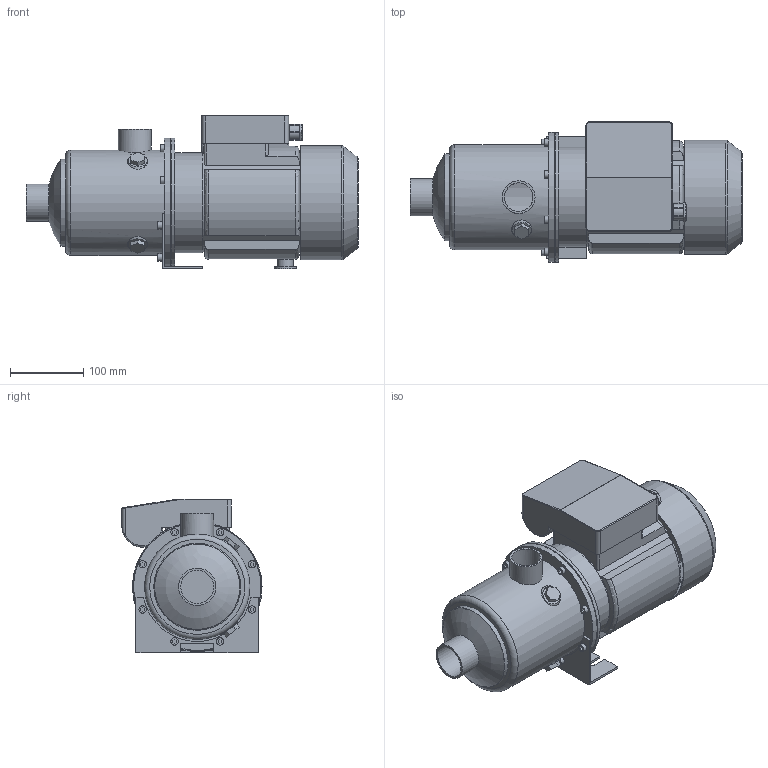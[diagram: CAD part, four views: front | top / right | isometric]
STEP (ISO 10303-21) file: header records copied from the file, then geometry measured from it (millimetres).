
FILE_DESCRIPTION(/* description */ ('Unknown'),/* implementation_level */ '2;1');
FILE_NAME(/* name */ 'MH 9 [4] M',/* time_stamp */ '2026-07-10T15:04:09+02:00',/* author */ ('Unknown'),/* organization */ ('Unknown'),/* preprocessor_version */ 'ST-DEVELOPER v20',/* originating_system */ 'Solid Edge',/* authorisation */ 'Unknown');
FILE_SCHEMA (('AUTOMOTIVE_DESIGN {1 0 10303 214 3 1 1}'));
Length unit declared in the file: millimetre
Products named in the file (10): MH 9 [4] M; Flangia motore Tonda M80; Corpo MH 9 [4]; Mot_Wendy_MEC80_11-15_M; carcassa MEC 80-Wendy; Copriventola MEC 80-Wendy; Basetta MEC 80 M-Wendy_new; 1; Piedino MEC 80 int.90; Staffa 3-5-9 int.90
Assembly tree (9 placements, depth 3):
  MH 9 [4] M
    Flangia motore Tonda M80
    Corpo MH 9 [4]
    Mot_Wendy_MEC80_11-15_M
      carcassa MEC 80-Wendy
      Copriventola MEC 80-Wendy
      Basetta MEC 80 M-Wendy_new
      1
    Piedino MEC 80 int.90
    Staffa 3-5-9 int.90
Bounding box: 452.1 x 190.75 x 209.5 mm (x, y, z)
Volume: 2628270.8 mm3; surface area: 605556.4 mm2
Topology: 8 solids, 8 shells, 287 faces, 678 edges, 447 vertices
Faces by surface type: plane 169, cylinder 79, torus 19, cone 14, bspline 4, sphere 2
Full cylindrical faces by diameter (mm): 7 x4, 10 x9, 12 x1, 15 x1, 16.5 x1, 21 x1, 30 x1, 38.952 x1, 44.5 x1, 44.845 x1, 50.8 x1, 116.1 x1, 118.5 x1, 125 x1, 130 x3, 134 x1, 136 x1, 141.1 x1, 143.5 x1, 153.5 x1, 155.5 x1, 173.5 x1, 174.1 x1, 176.5 x2
Entity records: 9330 total; most frequent: CARTESIAN_POINT 1798, DIRECTION 1316, ORIENTED_EDGE 1180, EDGE_CURVE 590, AXIS2_PLACEMENT_3D 487, VERTEX_POINT 417, EDGE_LOOP 395, FACE_BOUND 395
